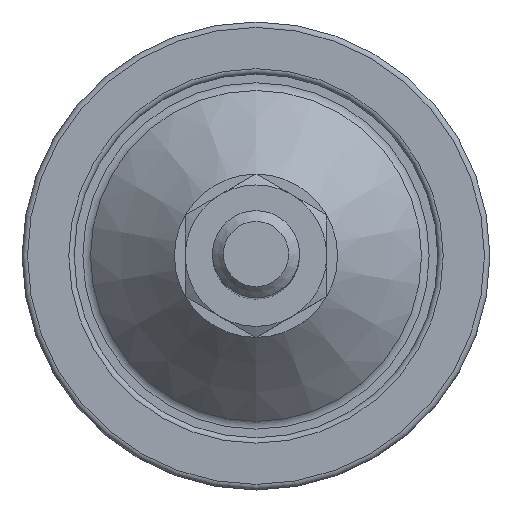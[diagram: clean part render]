
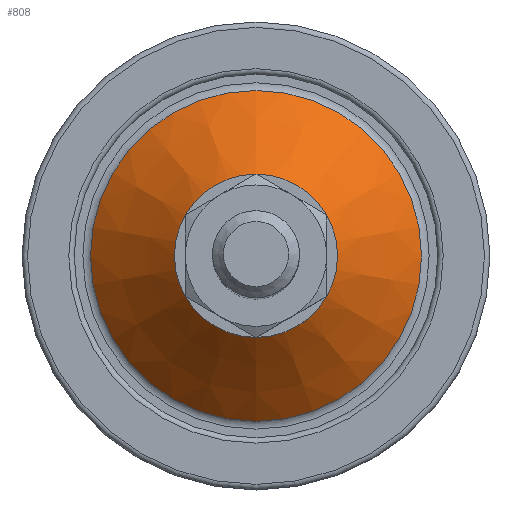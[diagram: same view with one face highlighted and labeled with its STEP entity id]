
A CAD part, top view. The second image highlights one B-rep face of the part: STEP entity #808.
In plain terms, the highlighted conical face has half-angle 45 degrees and reference radius 11.293 mm.
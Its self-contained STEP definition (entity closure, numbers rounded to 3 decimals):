
#122=FACE_BOUND('',#276,.T.);
#191=FACE_OUTER_BOUND('',#275,.T.);
#275=EDGE_LOOP('',(#682));
#276=EDGE_LOOP('',(#683));
#371=CIRCLE('',#912,15.207);
#372=CIRCLE('',#913,7.379);
#444=VERTEX_POINT('',#1433);
#445=VERTEX_POINT('',#1435);
#535=EDGE_CURVE('',#444,#444,#371,.T.);
#536=EDGE_CURVE('',#445,#445,#372,.T.);
#682=ORIENTED_EDGE('',*,*,#535,.T.);
#683=ORIENTED_EDGE('',*,*,#536,.F.);
#767=CONICAL_SURFACE('',#911,11.293,45.);
#808=ADVANCED_FACE('',(#191,#122),#767,.T.);
#911=AXIS2_PLACEMENT_3D('',#1432,#1112,#1113);
#912=AXIS2_PLACEMENT_3D('',#1434,#1114,#1115);
#913=AXIS2_PLACEMENT_3D('',#1436,#1116,#1117);
#1112=DIRECTION('center_axis',(0.,0.,-1.));
#1113=DIRECTION('ref_axis',(-1.,0.,0.));
#1114=DIRECTION('center_axis',(0.,0.,1.));
#1115=DIRECTION('ref_axis',(-1.,0.,0.));
#1116=DIRECTION('center_axis',(0.,0.,1.));
#1117=DIRECTION('ref_axis',(-1.,0.,0.));
#1432=CARTESIAN_POINT('Origin',(-1.009,0.458,-28.543));
#1433=CARTESIAN_POINT('',(-1.009,15.665,-32.457));
#1434=CARTESIAN_POINT('Origin',(-1.009,0.458,-32.457));
#1435=CARTESIAN_POINT('',(-1.009,7.837,-24.629));
#1436=CARTESIAN_POINT('Origin',(-1.009,0.458,-24.629));
